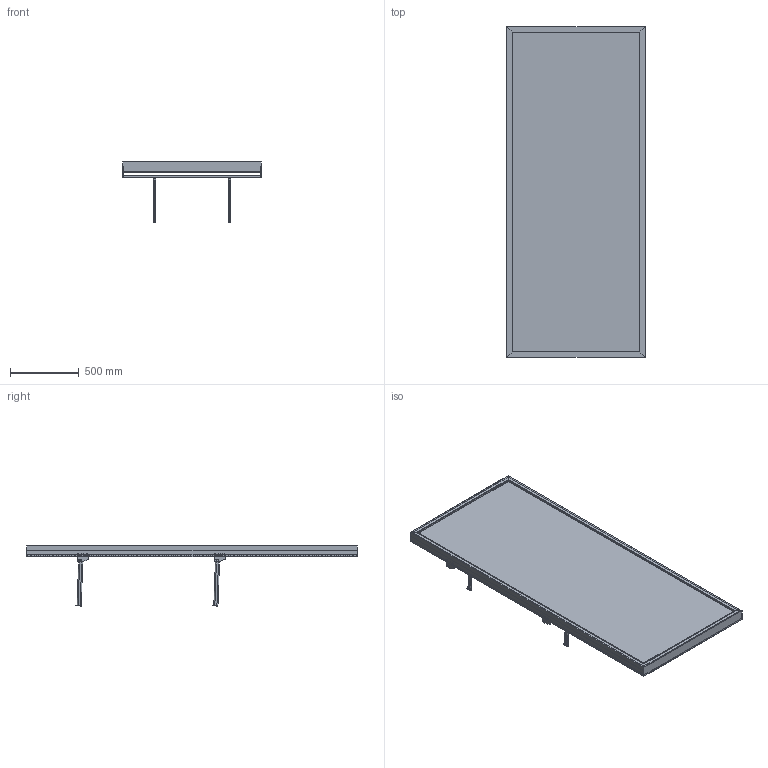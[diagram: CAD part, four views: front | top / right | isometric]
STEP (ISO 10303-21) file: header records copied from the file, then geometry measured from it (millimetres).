
FILE_DESCRIPTION (( 'STEP AP214' ), '1' );
FILE_NAME ('Slotted UpBright? Golf Pro Shop Apparel Wall (Config 1).STEP', '2026-03-30T16:42:29', ( '' ), ( '' ), 'SwSTEP 2.0', 'SolidWorks 2025', '' );
FILE_SCHEMA (( 'AUTOMOTIVE_DESIGN' ));
Length unit declared in the file: millimetre
Products named in the file (9): 0001-31-131; Slotted UpBright® Golf Pro Shop Apparel Wall (Config 1); 0001-31-103; 0001-31-112; 0001-31-GA10 - 1005W Slotted upbright; 0001-31-SA27 - Forward Facing Arm; 0001-31-SA26 - 1005W Rear support Bar; 0001-31-110; 0001-31-104
Assembly tree (13 placements, depth 3):
  Slotted UpBright® Golf Pro Shop Apparel Wall (Config 1)
    0001-31-GA10 - 1005W Slotted upbright
    0001-31-SA26 - 1005W Rear support Bar  x2
      0001-31-103
      0001-31-131
    0001-31-SA27 - Forward Facing Arm  x4
      0001-31-104
      0001-31-112
      0001-31-110
Bounding box: 1005.74 x 2400 x 436.21 mm (x, y, z)
Volume: 8408507.3 mm3; surface area: 12455445.2 mm2
Topology: 24 solids, 24 shells, 916 faces, 3048 edges, 2032 vertices
Faces by surface type: plane 756, cylinder 160
Entity records: 26907 total; most frequent: CARTESIAN_POINT 5136, ORIENTED_EDGE 4932, DIRECTION 3842, EDGE_CURVE 2466, VECTOR 2310, LINE 2310, VERTEX_POINT 1644, EDGE_LOOP 862
